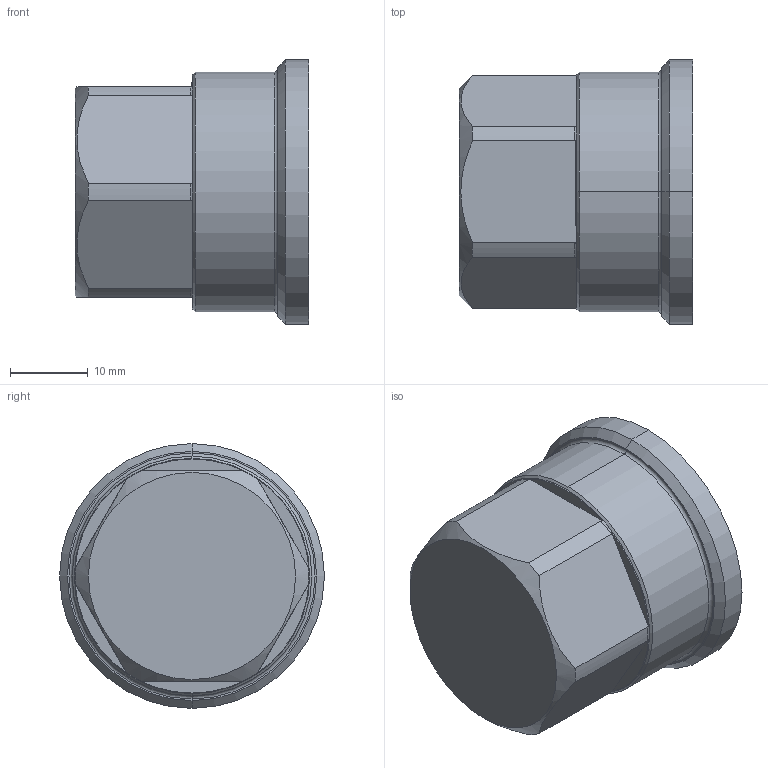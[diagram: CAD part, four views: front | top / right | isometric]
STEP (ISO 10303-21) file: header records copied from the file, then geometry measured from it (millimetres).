
FILE_DESCRIPTION (( 'STEP AP214' ), '1' );
FILE_NAME ('HANDLE_NUT_EX-S.STEP', '2020-07-03T10:57:51', ( '' ), ( '' ), 'SwSTEP 2.0', 'SolidWorks 2018', '' );
FILE_SCHEMA (( 'AUTOMOTIVE_DESIGN' ));
Length unit declared in the file: millimetre
Products named in the file (2): HANDLE_NUT_EX-S
Bounding box: 30 x 34 x 34 mm (x, y, z)
Volume: 13550.6 mm3; surface area: 6346.5 mm2
Topology: 1 solids, 1 shells, 70 faces, 160 edges, 95 vertices
Faces by surface type: cylinder 20, cone 18, plane 18, torus 14
Entity records: 2125 total; most frequent: CARTESIAN_POINT 457, DIRECTION 370, ORIENTED_EDGE 316, AXIS2_PLACEMENT_3D 160, EDGE_CURVE 158, VERTEX_POINT 95, CIRCLE 88, EDGE_LOOP 75
